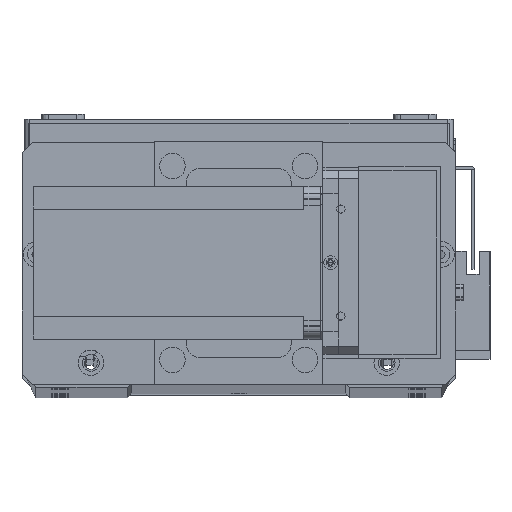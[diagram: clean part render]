
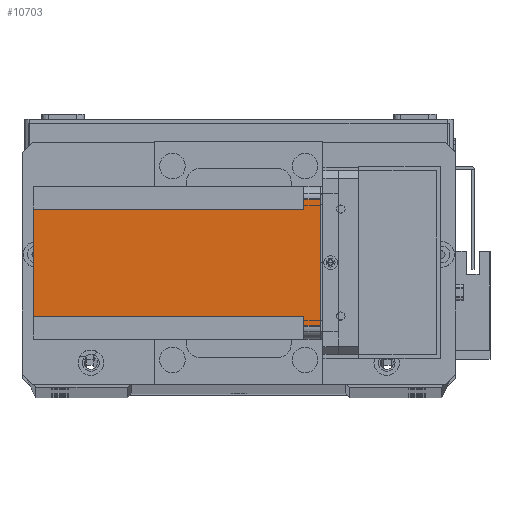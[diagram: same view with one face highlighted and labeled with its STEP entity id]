
A CAD part, top view. The second image highlights one B-rep face of the part: STEP entity #10703.
In plain terms, the highlighted planar face has unit normal (0, 0, 1) as drawn and (-1, 0, 0) by its records, which use the part's own axes.
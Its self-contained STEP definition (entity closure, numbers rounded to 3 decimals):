
#25 = DIRECTION ( 'NONE',  ( -1., 0., 0. ) ) ;
#833 = DIRECTION ( 'NONE',  ( 0., 1., 0. ) ) ;
#981 = VERTEX_POINT ( 'NONE', #13461 ) ;
#1068 = AXIS2_PLACEMENT_3D ( 'NONE', #1941, #25, #32927 ) ;
#1941 = CARTESIAN_POINT ( 'NONE',  ( 0., 0., -112.5 ) ) ;
#2093 = VERTEX_POINT ( 'NONE', #15302 ) ;
#2500 = PLANE ( 'NONE',  #1068 ) ;
#3795 = VERTEX_POINT ( 'NONE', #5135 ) ;
#4216 = DIRECTION ( 'NONE',  ( 0., -1., 0. ) ) ;
#4240 = ORIENTED_EDGE ( 'NONE', *, *, #14344, .F. ) ;
#4278 = CARTESIAN_POINT ( 'NONE',  ( 0., 0., 0. ) ) ;
#4322 = VERTEX_POINT ( 'NONE', #23300 ) ;
#4714 = CARTESIAN_POINT ( 'NONE',  ( 0., 55., 0. ) ) ;
#5135 = CARTESIAN_POINT ( 'NONE',  ( 0., 9., -112.5 ) ) ;
#5232 = VECTOR ( 'NONE', #4216, 1000. ) ;
#5321 = VERTEX_POINT ( 'NONE', #23984 ) ;
#5643 = VECTOR ( 'NONE', #32011, 1000. ) ;
#6300 = ORIENTED_EDGE ( 'NONE', *, *, #14194, .F. ) ;
#8598 = VECTOR ( 'NONE', #27480, 1000. ) ;
#9449 = LINE ( 'NONE', #27741, #29446 ) ;
#10703 = ADVANCED_FACE ( 'NONE', ( #10707 ), #2500, .T. ) ;
#10707 = FACE_OUTER_BOUND ( 'NONE', #31916, .T. ) ;
#11040 = LINE ( 'NONE', #28602, #17022 ) ;
#11460 = LINE ( 'NONE', #4278, #5232 ) ;
#12027 = ORIENTED_EDGE ( 'NONE', *, *, #14363, .F. ) ;
#13149 = CARTESIAN_POINT ( 'NONE',  ( 0., 51., -112.5 ) ) ;
#13461 = CARTESIAN_POINT ( 'NONE',  ( 0., 9., -6.5 ) ) ;
#13743 = VERTEX_POINT ( 'NONE', #32314 ) ;
#13867 = VECTOR ( 'NONE', #26758, 1000. ) ;
#14054 = EDGE_CURVE ( 'NONE', #14080, #5321, #11460, .T. ) ;
#14080 = VERTEX_POINT ( 'NONE', #4714 ) ;
#14194 = EDGE_CURVE ( 'NONE', #4322, #981, #26774, .T. ) ;
#14204 = EDGE_CURVE ( 'NONE', #4322, #5321, #25217, .T. ) ;
#14300 = EDGE_CURVE ( 'NONE', #14080, #2093, #11040, .T. ) ;
#14344 = EDGE_CURVE ( 'NONE', #13743, #2093, #9449, .T. ) ;
#14363 = EDGE_CURVE ( 'NONE', #32423, #13743, #15445, .T. ) ;
#14400 = EDGE_CURVE ( 'NONE', #32423, #3795, #22112, .T. ) ;
#14405 = EDGE_CURVE ( 'NONE', #981, #3795, #20496, .T. ) ;
#14442 = ORIENTED_EDGE ( 'NONE', *, *, #14204, .T. ) ;
#15302 = CARTESIAN_POINT ( 'NONE',  ( 0., 55., -6.5 ) ) ;
#15445 = LINE ( 'NONE', #27592, #8598 ) ;
#17022 = VECTOR ( 'NONE', #28483, 1000. ) ;
#19316 = VECTOR ( 'NONE', #833, 1000. ) ;
#20496 = LINE ( 'NONE', #26958, #32887 ) ;
#22112 = LINE ( 'NONE', #26726, #13867 ) ;
#22905 = ORIENTED_EDGE ( 'NONE', *, *, #14400, .T. ) ;
#23300 = CARTESIAN_POINT ( 'NONE',  ( 0., 5., -6.5 ) ) ;
#23860 = ORIENTED_EDGE ( 'NONE', *, *, #14054, .F. ) ;
#23984 = CARTESIAN_POINT ( 'NONE',  ( 0., 5., 0. ) ) ;
#25217 = LINE ( 'NONE', #31350, #5643 ) ;
#26655 = ORIENTED_EDGE ( 'NONE', *, *, #14300, .T. ) ;
#26726 = CARTESIAN_POINT ( 'NONE',  ( 0., 0., -112.5 ) ) ;
#26753 = DIRECTION ( 'NONE',  ( 0., 0., -1. ) ) ;
#26758 = DIRECTION ( 'NONE',  ( 0., -1., 0. ) ) ;
#26774 = LINE ( 'NONE', #32408, #19316 ) ;
#26958 = CARTESIAN_POINT ( 'NONE',  ( 0., 9., -112.5 ) ) ;
#27480 = DIRECTION ( 'NONE',  ( 0., 0., 1. ) ) ;
#27592 = CARTESIAN_POINT ( 'NONE',  ( 0., 51., -112.5 ) ) ;
#27741 = CARTESIAN_POINT ( 'NONE',  ( 0., 60., -6.5 ) ) ;
#27832 = DIRECTION ( 'NONE',  ( 0., 1., 0. ) ) ;
#28483 = DIRECTION ( 'NONE',  ( 0., 0., -1. ) ) ;
#28602 = CARTESIAN_POINT ( 'NONE',  ( 0., 55., -112.5 ) ) ;
#29446 = VECTOR ( 'NONE', #27832, 1000. ) ;
#30402 = ORIENTED_EDGE ( 'NONE', *, *, #14405, .F. ) ;
#31350 = CARTESIAN_POINT ( 'NONE',  ( 0., 5., -112.5 ) ) ;
#31916 = EDGE_LOOP ( 'NONE', ( #6300, #14442, #23860, #26655, #4240, #12027, #22905, #30402 ) ) ;
#32011 = DIRECTION ( 'NONE',  ( 0., 0., 1. ) ) ;
#32314 = CARTESIAN_POINT ( 'NONE',  ( 0., 51., -6.5 ) ) ;
#32408 = CARTESIAN_POINT ( 'NONE',  ( 0., 0., -6.5 ) ) ;
#32423 = VERTEX_POINT ( 'NONE', #13149 ) ;
#32887 = VECTOR ( 'NONE', #26753, 1000. ) ;
#32927 = DIRECTION ( 'NONE',  ( 0., -1., 0. ) ) ;
